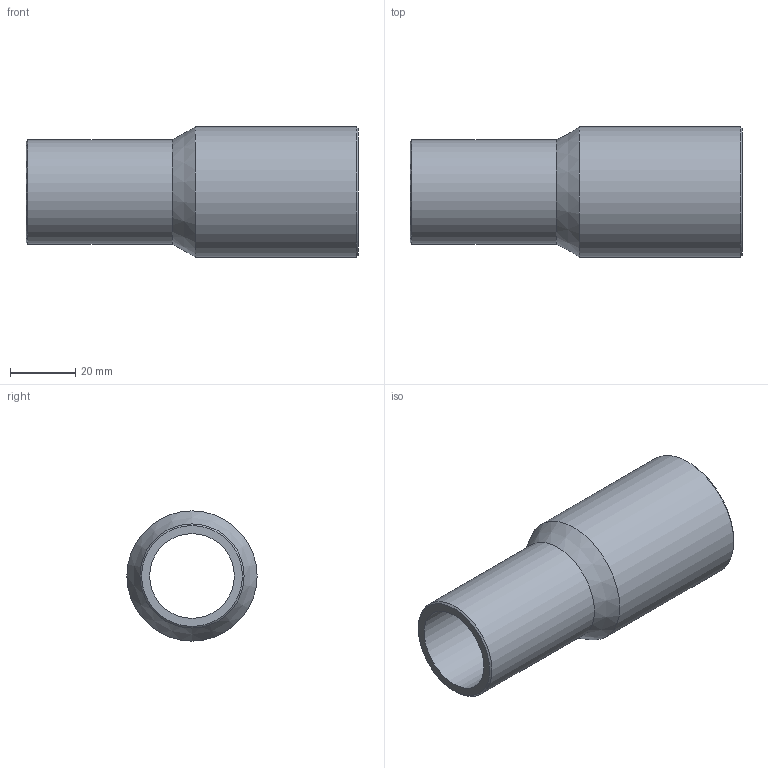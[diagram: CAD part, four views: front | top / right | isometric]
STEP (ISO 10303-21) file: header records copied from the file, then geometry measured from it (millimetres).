
FILE_DESCRIPTION(/* description */ ('Unknown'),/* implementation_level */ '2;1');
FILE_NAME(/* name */ 'RP040032C',/* time_stamp */ '2021-09-17T14:53:50+02:00',/* author */ ('Unknown'),/* organization */ ('Unknown'),/* preprocessor_version */ 'ST-DEVELOPER v16.7',/* originating_system */ 'Solid Edge',/* authorisation */ 'Unknown');
FILE_SCHEMA (('AUTOMOTIVE_DESIGN {1 0 10303 214 3 1 1}'));
Length unit declared in the file: millimetre
Products named in the file (1): RP040032C
Bounding box: 102 x 40 x 40 mm (x, y, z)
Volume: 36987 mm3; surface area: 21796.3 mm2
Topology: 1 solids, 1 shells, 10 faces, 19 edges, 11 vertices
Faces by surface type: cylinder 4, cone 4, plane 2
Full cylindrical faces by diameter (mm): 26 x1, 32 x1, 32.6 x1, 40 x1
Entity records: 238 total; most frequent: DIRECTION 42, CARTESIAN_POINT 31, AXIS2_PLACEMENT_3D 21, ORIENTED_EDGE 20, EDGE_LOOP 20, FACE_BOUND 20, EDGE_CURVE 10, VERTEX_POINT 10
